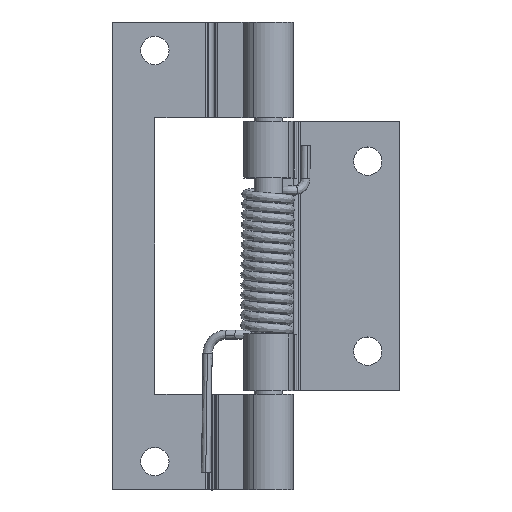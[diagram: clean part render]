
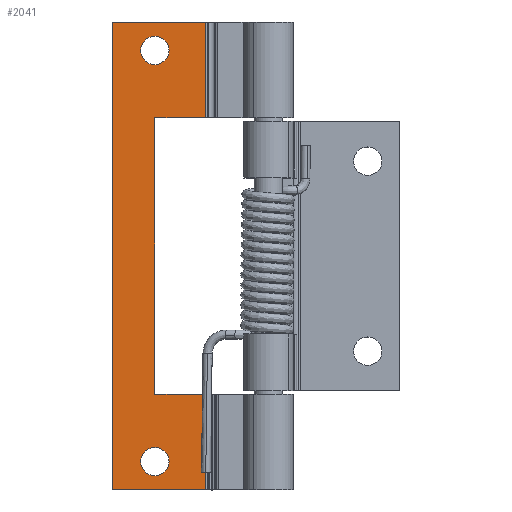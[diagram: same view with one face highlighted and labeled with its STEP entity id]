
A CAD part, top view. The second image highlights one B-rep face of the part: STEP entity #2041.
In plain terms, the highlighted planar face has unit normal (0, 0, 1).
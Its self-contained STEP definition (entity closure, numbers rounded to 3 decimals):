
#443=CARTESIAN_POINT('',(2.,32.,1.15));
#444=VERTEX_POINT('',#443);
#460=CARTESIAN_POINT('',(-2.,32.,1.15));
#461=VERTEX_POINT('',#460);
#468=CARTESIAN_POINT('',(0.,32.,1.15));
#469=DIRECTION('',(0.0,0.0,-1.0));
#470=DIRECTION('',(1.0,0.0,0.0));
#471=AXIS2_PLACEMENT_3D('',#468,#469,#470);
#472=CIRCLE('',#471,2.0);
#473=EDGE_CURVE('',#444,#461,#472,.T.);
#485=CARTESIAN_POINT('',(2.,-26.,1.15));
#486=VERTEX_POINT('',#485);
#502=CARTESIAN_POINT('',(-2.,-26.,1.15));
#503=VERTEX_POINT('',#502);
#510=CARTESIAN_POINT('',(0.,-26.,1.15));
#511=DIRECTION('',(0.0,0.0,-1.0));
#512=DIRECTION('',(1.0,0.0,0.0));
#513=AXIS2_PLACEMENT_3D('',#510,#511,#512);
#514=CIRCLE('',#513,2.0);
#515=EDGE_CURVE('',#486,#503,#514,.T.);
#1269=CARTESIAN_POINT('',(7.134,22.5,1.15));
#1270=VERTEX_POINT('',#1269);
#1278=CARTESIAN_POINT('',(0.0,22.5,1.15));
#1279=VERTEX_POINT('',#1278);
#1280=CARTESIAN_POINT('',(7.134,22.5,1.15));
#1281=DIRECTION('',(-1.0,0.0,0.0));
#1282=VECTOR('',#1281,7.134);
#1283=LINE('',#1280,#1282);
#1284=EDGE_CURVE('',#1270,#1279,#1283,.T.);
#1418=CARTESIAN_POINT('',(0.0,-16.5,1.15));
#1419=VERTEX_POINT('',#1418);
#1426=CARTESIAN_POINT('',(7.134,-16.5,1.15));
#1427=VERTEX_POINT('',#1426);
#1428=CARTESIAN_POINT('',(0.0,-16.5,1.15));
#1429=DIRECTION('',(1.0,0.0,0.0));
#1430=VECTOR('',#1429,7.134);
#1431=LINE('',#1428,#1430);
#1432=EDGE_CURVE('',#1419,#1427,#1431,.T.);
#1658=CARTESIAN_POINT('',(7.134,-30.,1.15));
#1659=VERTEX_POINT('',#1658);
#1667=CARTESIAN_POINT('',(-6.,-30.,1.15));
#1668=VERTEX_POINT('',#1667);
#1669=CARTESIAN_POINT('',(7.134,-30.,1.15));
#1670=DIRECTION('',(-1.0,0.0,0.0));
#1671=VECTOR('',#1670,13.134);
#1672=LINE('',#1669,#1671);
#1673=EDGE_CURVE('',#1659,#1668,#1672,.T.);
#1712=CARTESIAN_POINT('',(7.134,-16.5,1.15));
#1713=DIRECTION('',(0.0,-1.0,0.0));
#1714=VECTOR('',#1713,13.5);
#1715=LINE('',#1712,#1714);
#1716=EDGE_CURVE('',#1427,#1659,#1715,.T.);
#1779=CARTESIAN_POINT('',(7.134,36.,1.15));
#1780=VERTEX_POINT('',#1779);
#1788=CARTESIAN_POINT('',(7.134,36.,1.15));
#1789=DIRECTION('',(0.0,-1.0,0.0));
#1790=VECTOR('',#1789,13.5);
#1791=LINE('',#1788,#1790);
#1792=EDGE_CURVE('',#1780,#1270,#1791,.T.);
#1900=CARTESIAN_POINT('',(-6.,36.,1.15));
#1901=VERTEX_POINT('',#1900);
#1908=CARTESIAN_POINT('',(-6.,36.,1.15));
#1909=DIRECTION('',(1.0,0.0,0.0));
#1910=VECTOR('',#1909,13.134);
#1911=LINE('',#1908,#1910);
#1912=EDGE_CURVE('',#1901,#1780,#1911,.T.);
#1996=CARTESIAN_POINT('',(-1.474,0.,1.15));
#1997=DIRECTION('',(0.0,0.0,1.0));
#1998=DIRECTION('',(1.0,0.0,0.0));
#1999=AXIS2_PLACEMENT_3D('',#1996,#1997,#1998);
#2000=PLANE('',#1999);
#2001=ORIENTED_EDGE('',*,*,#1716,.F.);
#2002=ORIENTED_EDGE('',*,*,#1432,.F.);
#2003=CARTESIAN_POINT('',(0.0,22.5,1.15));
#2004=DIRECTION('',(0.0,-1.0,0.0));
#2005=VECTOR('',#2004,39.0);
#2006=LINE('',#2003,#2005);
#2007=EDGE_CURVE('',#1279,#1419,#2006,.T.);
#2008=ORIENTED_EDGE('',*,*,#2007,.F.);
#2009=ORIENTED_EDGE('',*,*,#1284,.F.);
#2010=ORIENTED_EDGE('',*,*,#1792,.F.);
#2011=ORIENTED_EDGE('',*,*,#1912,.F.);
#2012=CARTESIAN_POINT('',(-6.,-30.,1.15));
#2013=DIRECTION('',(0.0,1.0,0.0));
#2014=VECTOR('',#2013,66.0);
#2015=LINE('',#2012,#2014);
#2016=EDGE_CURVE('',#1668,#1901,#2015,.T.);
#2017=ORIENTED_EDGE('',*,*,#2016,.F.);
#2018=ORIENTED_EDGE('',*,*,#1673,.F.);
#2019=EDGE_LOOP('',(#2001,#2002,#2008,#2009,#2010,#2011,#2017,#2018));
#2020=FACE_OUTER_BOUND('',#2019,.T.);
#2021=ORIENTED_EDGE('',*,*,#473,.T.);
#2022=CARTESIAN_POINT('',(0.,32.,1.15));
#2023=DIRECTION('',(0.0,0.0,-1.0));
#2024=DIRECTION('',(1.0,0.0,0.0));
#2025=AXIS2_PLACEMENT_3D('',#2022,#2023,#2024);
#2026=CIRCLE('',#2025,2.0);
#2027=EDGE_CURVE('',#461,#444,#2026,.T.);
#2028=ORIENTED_EDGE('',*,*,#2027,.T.);
#2029=EDGE_LOOP('',(#2021,#2028));
#2030=FACE_BOUND('',#2029,.T.);
#2031=ORIENTED_EDGE('',*,*,#515,.T.);
#2032=CARTESIAN_POINT('',(0.,-26.,1.15));
#2033=DIRECTION('',(0.0,0.0,-1.0));
#2034=DIRECTION('',(1.0,0.0,0.0));
#2035=AXIS2_PLACEMENT_3D('',#2032,#2033,#2034);
#2036=CIRCLE('',#2035,2.0);
#2037=EDGE_CURVE('',#503,#486,#2036,.T.);
#2038=ORIENTED_EDGE('',*,*,#2037,.T.);
#2039=EDGE_LOOP('',(#2031,#2038));
#2040=FACE_BOUND('',#2039,.T.);
#2041=ADVANCED_FACE('',(#2020,#2030,#2040),#2000,.T.);
